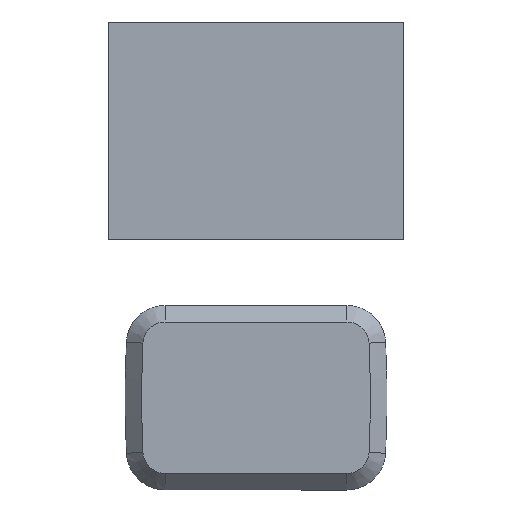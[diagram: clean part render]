
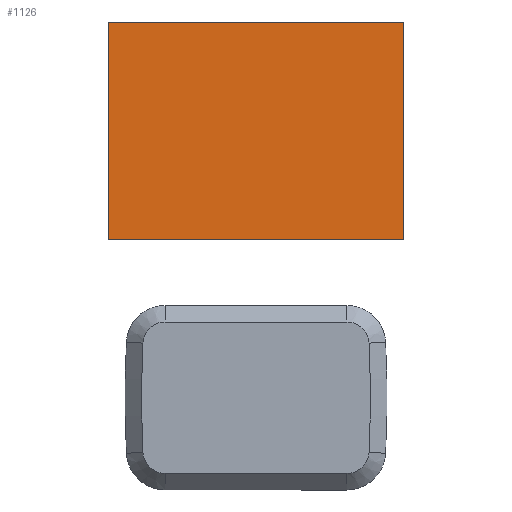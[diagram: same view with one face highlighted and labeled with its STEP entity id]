
A CAD part, front view. The second image highlights one B-rep face of the part: STEP entity #1126.
In plain terms, the highlighted planar face has unit normal (0, -1, 0).
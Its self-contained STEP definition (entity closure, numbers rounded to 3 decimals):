
#76 = ORIENTED_EDGE ( 'NONE', *, *, #126, .T. ) ;
#93 = CARTESIAN_POINT ( 'NONE',  ( -133.5, -65., 143.047 ) ) ;
#126 = EDGE_CURVE ( 'NONE', #491, #857, #512, .T. ) ;
#145 = CARTESIAN_POINT ( 'NONE',  ( -82.324, -65., 193.047 ) ) ;
#216 = PLANE ( 'NONE',  #1162 ) ;
#243 = CARTESIAN_POINT ( 'NONE',  ( 133.5, -65., 340.047 ) ) ;
#263 = DIRECTION ( 'NONE',  ( 0., 0., -1. ) ) ;
#298 = VECTOR ( 'NONE', #427, 1000. ) ;
#413 = CARTESIAN_POINT ( 'NONE',  ( -133.5, -65., 340.047 ) ) ;
#427 = DIRECTION ( 'NONE',  ( 1., 0., 0. ) ) ;
#432 = VECTOR ( 'NONE', #994, 1000. ) ;
#491 = VERTEX_POINT ( 'NONE', #413 ) ;
#510 = LINE ( 'NONE', #1113, #298 ) ;
#512 = LINE ( 'NONE', #1199, #1172 ) ;
#529 = VERTEX_POINT ( 'NONE', #991 ) ;
#775 = ORIENTED_EDGE ( 'NONE', *, *, #805, .T. ) ;
#787 = LINE ( 'NONE', #243, #432 ) ;
#805 = EDGE_CURVE ( 'NONE', #857, #1198, #510, .T. ) ;
#857 = VERTEX_POINT ( 'NONE', #93 ) ;
#876 = DIRECTION ( 'NONE',  ( 0., 0., 1. ) ) ;
#879 = EDGE_LOOP ( 'NONE', ( #1109, #1002, #76, #775 ) ) ;
#892 = CARTESIAN_POINT ( 'NONE',  ( -133.5, -65., 340.047 ) ) ;
#928 = FACE_OUTER_BOUND ( 'NONE', #879, .T. ) ;
#962 = EDGE_CURVE ( 'NONE', #529, #491, #1200, .T. ) ;
#991 = CARTESIAN_POINT ( 'NONE',  ( 133.5, -65., 340.047 ) ) ;
#994 = DIRECTION ( 'NONE',  ( 0., 0., 1. ) ) ;
#1002 = ORIENTED_EDGE ( 'NONE', *, *, #962, .T. ) ;
#1083 = CARTESIAN_POINT ( 'NONE',  ( 133.5, -65., 143.047 ) ) ;
#1095 = DIRECTION ( 'NONE',  ( -1., 0., 0. ) ) ;
#1109 = ORIENTED_EDGE ( 'NONE', *, *, #1158, .T. ) ;
#1113 = CARTESIAN_POINT ( 'NONE',  ( -133.5, -65., 143.047 ) ) ;
#1126 = ADVANCED_FACE ( 'NONE', ( #928 ), #216, .F. ) ;
#1158 = EDGE_CURVE ( 'NONE', #1198, #529, #787, .T. ) ;
#1160 = DIRECTION ( 'NONE',  ( 0., 1., 0. ) ) ;
#1162 = AXIS2_PLACEMENT_3D ( 'NONE', #145, #1160, #876 ) ;
#1172 = VECTOR ( 'NONE', #263, 1000. ) ;
#1183 = VECTOR ( 'NONE', #1095, 1000. ) ;
#1198 = VERTEX_POINT ( 'NONE', #1083 ) ;
#1199 = CARTESIAN_POINT ( 'NONE',  ( -133.5, -65., 340.047 ) ) ;
#1200 = LINE ( 'NONE', #892, #1183 ) ;
